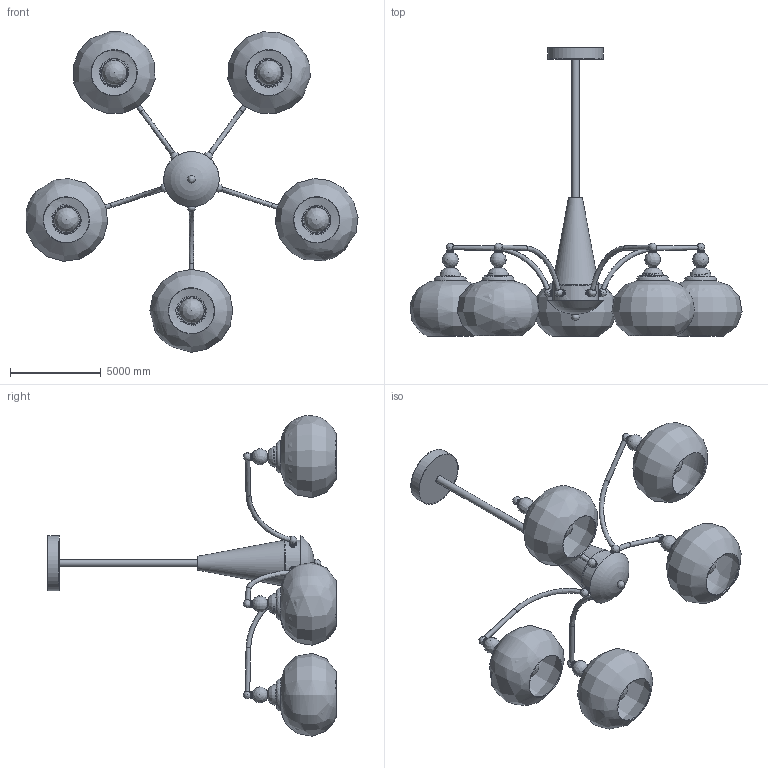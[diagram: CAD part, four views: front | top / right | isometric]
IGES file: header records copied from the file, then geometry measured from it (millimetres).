
Global section: file name: Retro Calliope Chandelier-5heads; native system: AutoCAD 2022 - 简体中文 (Simplified Chinese),62HAuto; preprocessor: desk Translation Framework DWG producer (atf_dwg_producer); organization: unknown; date: 20250410.171632; units: inch
Bounding box: 18261.05 x 15857.1 x 17631.93 mm (x, y, z)
Volume: 41899843318 mm3; surface area: 816823952.5 mm2
Topology: 60 solids, 60 shells, 427 faces, 1028 edges, 745 vertices
Faces by surface type: bspline 427
